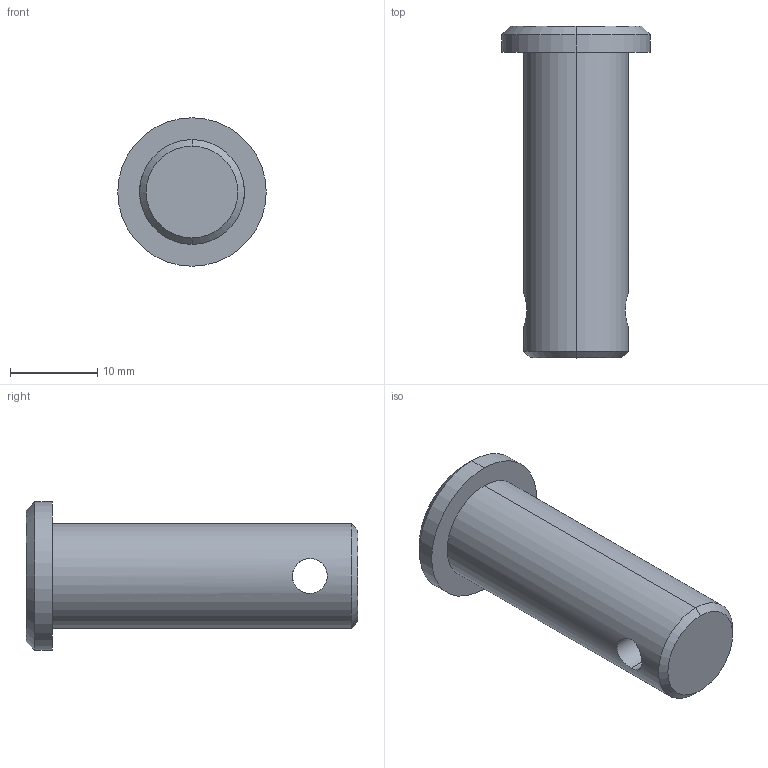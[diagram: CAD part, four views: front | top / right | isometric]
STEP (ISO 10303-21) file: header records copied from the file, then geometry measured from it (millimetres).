
FILE_DESCRIPTION (( 'STEP AP203' ), '1' );
FILE_NAME ('65660.W0112.step', '2023-10-06T09:59:05', ( '' ), ( '' ), 'SwSTEP 2.0', 'SolidWorks 2019', '' );
FILE_SCHEMA (( 'CONFIG_CONTROL_DESIGN' ));
Length unit declared in the file: millimetre
Products named in the file (1): 65660.W0112
Bounding box: 17 x 38 x 17 mm (x, y, z)
Volume: 4454.9 mm3; surface area: 2004.8 mm2
Topology: 1 solids, 1 shells, 13 faces, 26 edges, 16 vertices
Faces by surface type: cylinder 6, cone 4, plane 3
Entity records: 529 total; most frequent: CARTESIAN_POINT 172, DIRECTION 62, ORIENTED_EDGE 52, AXIS2_PLACEMENT_3D 26, EDGE_CURVE 26, EDGE_LOOP 16, VERTEX_POINT 16, FACE_OUTER_BOUND 13
